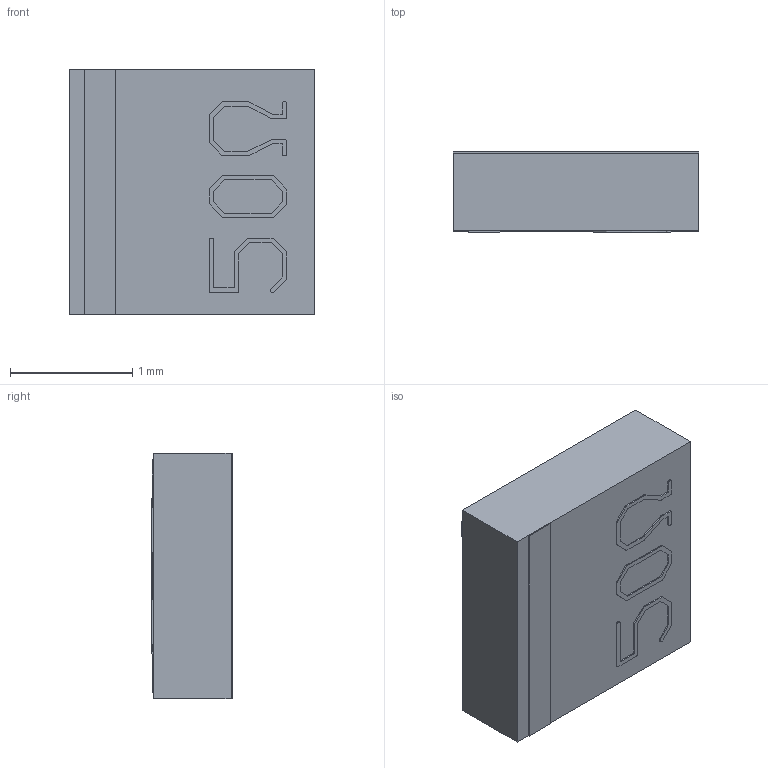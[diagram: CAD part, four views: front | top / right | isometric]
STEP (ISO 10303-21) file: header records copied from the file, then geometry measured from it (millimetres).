
FILE_DESCRIPTION (( 'STEP AP203' ), '1' );
FILE_NAME ('TS0808CT-50R0GN-2S STEP.STEP', '2018-10-15T15:08:10', ( '' ), ( '' ), 'SwSTEP 2.0', 'SolidWorks 2018', '' );
FILE_SCHEMA (( 'CONFIG_CONTROL_DESIGN' ));
Length unit declared in the file: inch
Products named in the file (8): P_A_P1A; E_A; C_A; P_A_P2A; 0808; H_A; M_A; TS0808CT-50R0GN-2S STEP
Assembly tree (7 placements, depth 2):
  TS0808CT-50R0GN-2S STEP
    0808
    M_A
    C_A
    E_A
    H_A
    P_A_P1A
    P_A_P2A
Bounding box: 2.01 x 0.66 x 2.01 mm (x, y, z)
Volume: 2.7 mm3; surface area: 30.4 mm2
Topology: 13 solids, 13 shells, 166 faces, 420 edges, 280 vertices
Faces by surface type: plane 144, bspline 22
Entity records: 6114 total; most frequent: CARTESIAN_POINT 1402, ORIENTED_EDGE 840, DIRECTION 684, EDGE_CURVE 420, VECTOR 376, LINE 376, VERTEX_POINT 280, EDGE_LOOP 168
